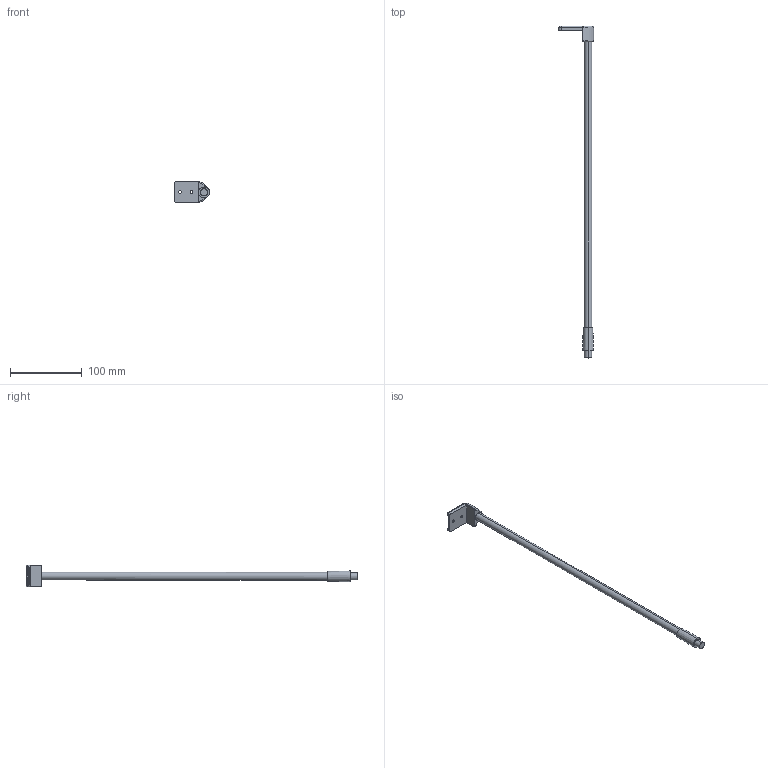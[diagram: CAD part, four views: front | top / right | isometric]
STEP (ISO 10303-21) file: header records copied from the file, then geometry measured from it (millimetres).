
FILE_DESCRIPTION (( 'STEP AP214' ), '1' );
FILE_NAME ('_2S_RUL_7107_NL450_RE.step', '2010-06-29T14:08:20', ( 'grass' ), ( '' ), 'SwSTEP 2.0', 'SolidWorks 2009', '' );
FILE_SCHEMA (( 'AUTOMOTIVE_DESIGN' ));
Length unit declared in the file: millimetre
Products named in the file (1): _2S_RUL_7107_NL450_RE
Bounding box: 49.5 x 463 x 30 mm (x, y, z)
Volume: 54243.4 mm3; surface area: 20612 mm2
Topology: 1 solids, 1 shells, 89 faces, 203 edges, 118 vertices
Faces by surface type: cylinder 32, plane 17, torus 16, bspline 16, cone 6, sphere 2
Entity records: 4566 total; most frequent: CARTESIAN_POINT 2608, DIRECTION 411, ORIENTED_EDGE 402, EDGE_CURVE 201, AXIS2_PLACEMENT_3D 172, VERTEX_POINT 118, CIRCLE 98, EDGE_LOOP 97
